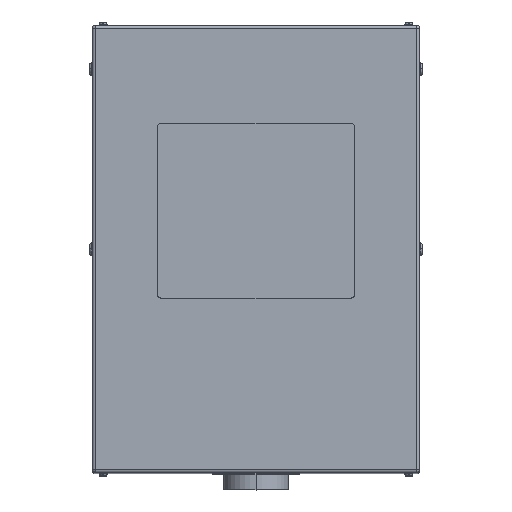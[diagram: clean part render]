
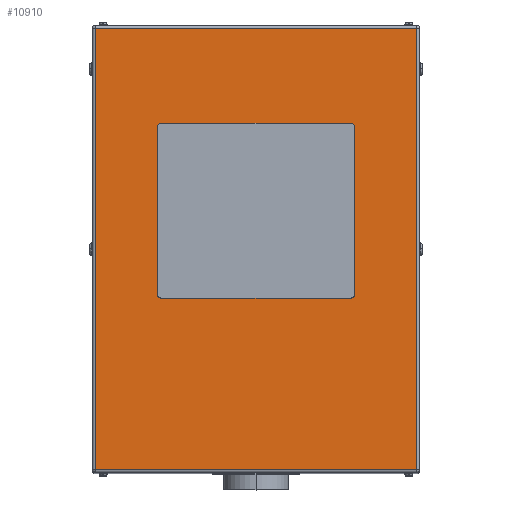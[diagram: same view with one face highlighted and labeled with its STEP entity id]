
A CAD part, top view. The second image highlights one B-rep face of the part: STEP entity #10910.
In plain terms, the highlighted planar face has unit normal (0, 0, 1).
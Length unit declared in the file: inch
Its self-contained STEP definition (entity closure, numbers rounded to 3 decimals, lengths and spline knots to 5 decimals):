
#189 = EDGE_CURVE ( 'NONE', #3416, #13415, #8783, .T. ) ;
#241 = VERTEX_POINT ( 'NONE', #742 ) ;
#296 = CARTESIAN_POINT ( 'NONE',  ( -8.75, -4.5, 29. ) ) ;
#727 = EDGE_CURVE ( 'NONE', #12975, #3416, #15893, .T. ) ;
#742 = CARTESIAN_POINT ( 'NONE',  ( -14.734, 20.234, 29. ) ) ;
#792 = VERTEX_POINT ( 'NONE', #14416 ) ;
#1377 = PLANE ( 'NONE',  #11976 ) ;
#1795 = CARTESIAN_POINT ( 'NONE',  ( -8.75, 11.5, 29. ) ) ;
#2184 = CARTESIAN_POINT ( 'NONE',  ( 15., 20.234, 29. ) ) ;
#2364 = VECTOR ( 'NONE', #19317, 39.37008 ) ;
#2567 = LINE ( 'NONE', #296, #15272 ) ;
#2724 = AXIS2_PLACEMENT_3D ( 'NONE', #10993, #16459, #4165 ) ;
#2852 = VECTOR ( 'NONE', #20406, 39.37008 ) ;
#2894 = LINE ( 'NONE', #6990, #13952 ) ;
#3262 = CARTESIAN_POINT ( 'NONE',  ( 15., 20.5, 29. ) ) ;
#3369 = LINE ( 'NONE', #21369, #11432 ) ;
#3416 = VERTEX_POINT ( 'NONE', #22306 ) ;
#3504 = CARTESIAN_POINT ( 'NONE',  ( 8.75, 11.5, 29. ) ) ;
#3541 = CARTESIAN_POINT ( 'NONE',  ( 14.734, 20.5, 29. ) ) ;
#3642 = FACE_BOUND ( 'NONE', #14204, .T. ) ;
#3819 = EDGE_CURVE ( 'NONE', #792, #12975, #4375, .T. ) ;
#4154 = EDGE_CURVE ( 'NONE', #13559, #14974, #5544, .T. ) ;
#4165 = DIRECTION ( 'NONE',  ( -1., 0., 0. ) ) ;
#4266 = DIRECTION ( 'NONE',  ( 0., 0., 1. ) ) ;
#4375 = CIRCLE ( 'NONE', #2724, 0.25 ) ;
#4660 = CARTESIAN_POINT ( 'NONE',  ( 14.734, -20.234, 29. ) ) ;
#5116 = VERTEX_POINT ( 'NONE', #18857 ) ;
#5229 = DIRECTION ( 'NONE',  ( 1., 0., 0. ) ) ;
#5544 = LINE ( 'NONE', #3541, #7688 ) ;
#5660 = CIRCLE ( 'NONE', #16988, 0.25 ) ;
#6076 = DIRECTION ( 'NONE',  ( 1., 0., 0. ) ) ;
#6162 = CARTESIAN_POINT ( 'NONE',  ( 9., -4.25, 29. ) ) ;
#6259 = DIRECTION ( 'NONE',  ( 0., 0., 1. ) ) ;
#6400 = CARTESIAN_POINT ( 'NONE',  ( -8.75, -4.25, 29. ) ) ;
#6717 = DIRECTION ( 'NONE',  ( 0., 0., -1. ) ) ;
#6798 = EDGE_CURVE ( 'NONE', #19132, #792, #2894, .T. ) ;
#6990 = CARTESIAN_POINT ( 'NONE',  ( 9., 11.25, 29. ) ) ;
#7362 = DIRECTION ( 'NONE',  ( 0., 1., 0. ) ) ;
#7688 = VECTOR ( 'NONE', #15533, 39.37008 ) ;
#7856 = ORIENTED_EDGE ( 'NONE', *, *, #12881, .F. ) ;
#8003 = LINE ( 'NONE', #2184, #16644 ) ;
#8783 = CIRCLE ( 'NONE', #13582, 0.25 ) ;
#8822 = DIRECTION ( 'NONE',  ( 0., -1., 0. ) ) ;
#8837 = DIRECTION ( 'NONE',  ( -1., 0., 0. ) ) ;
#9185 = ORIENTED_EDGE ( 'NONE', *, *, #3819, .F. ) ;
#9352 = ORIENTED_EDGE ( 'NONE', *, *, #21242, .F. ) ;
#9634 = ORIENTED_EDGE ( 'NONE', *, *, #10416, .T. ) ;
#9974 = ORIENTED_EDGE ( 'NONE', *, *, #21387, .F. ) ;
#10416 = EDGE_CURVE ( 'NONE', #14974, #241, #8003, .T. ) ;
#10602 = CARTESIAN_POINT ( 'NONE',  ( -14.734, 20.5, 29. ) ) ;
#10759 = AXIS2_PLACEMENT_3D ( 'NONE', #6400, #6259, #20169 ) ;
#10910 = ADVANCED_FACE ( 'NONE', ( #3642, #18479 ), #1377, .F. ) ;
#10993 = CARTESIAN_POINT ( 'NONE',  ( 8.75, 11.25, 29. ) ) ;
#11005 = LINE ( 'NONE', #10602, #19663 ) ;
#11136 = CARTESIAN_POINT ( 'NONE',  ( -14.734, -20.234, 29. ) ) ;
#11343 = ORIENTED_EDGE ( 'NONE', *, *, #189, .F. ) ;
#11432 = VECTOR ( 'NONE', #14254, 39.37008 ) ;
#11500 = CIRCLE ( 'NONE', #10759, 0.25 ) ;
#11976 = AXIS2_PLACEMENT_3D ( 'NONE', #3262, #6717, #13587 ) ;
#12304 = ORIENTED_EDGE ( 'NONE', *, *, #20258, .F. ) ;
#12653 = CARTESIAN_POINT ( 'NONE',  ( 8.75, -4.5, 29. ) ) ;
#12737 = VERTEX_POINT ( 'NONE', #11136 ) ;
#12852 = ORIENTED_EDGE ( 'NONE', *, *, #17573, .T. ) ;
#12881 = EDGE_CURVE ( 'NONE', #20897, #5116, #11500, .T. ) ;
#12975 = VERTEX_POINT ( 'NONE', #3504 ) ;
#13415 = VERTEX_POINT ( 'NONE', #19281 ) ;
#13559 = VERTEX_POINT ( 'NONE', #4660 ) ;
#13582 = AXIS2_PLACEMENT_3D ( 'NONE', #18095, #19460, #16076 ) ;
#13587 = DIRECTION ( 'NONE',  ( -1., 0., 0. ) ) ;
#13853 = CARTESIAN_POINT ( 'NONE',  ( 14.734, 20.234, 29. ) ) ;
#13952 = VECTOR ( 'NONE', #7362, 39.37008 ) ;
#14204 = EDGE_LOOP ( 'NONE', ( #9352, #7856, #9974, #11343, #15508, #9185, #18553, #12304 ) ) ;
#14254 = DIRECTION ( 'NONE',  ( 0., -1., 0. ) ) ;
#14416 = CARTESIAN_POINT ( 'NONE',  ( 9., 11.25, 29. ) ) ;
#14974 = VERTEX_POINT ( 'NONE', #13853 ) ;
#15272 = VECTOR ( 'NONE', #5229, 39.37008 ) ;
#15475 = CARTESIAN_POINT ( 'NONE',  ( 14.734, -20.234, 29. ) ) ;
#15508 = ORIENTED_EDGE ( 'NONE', *, *, #727, .F. ) ;
#15533 = DIRECTION ( 'NONE',  ( 0., 1., 0. ) ) ;
#15893 = LINE ( 'NONE', #1795, #2364 ) ;
#16076 = DIRECTION ( 'NONE',  ( 1., 0., 0. ) ) ;
#16382 = VERTEX_POINT ( 'NONE', #12653 ) ;
#16459 = DIRECTION ( 'NONE',  ( 0., 0., 1. ) ) ;
#16644 = VECTOR ( 'NONE', #8837, 39.37008 ) ;
#16988 = AXIS2_PLACEMENT_3D ( 'NONE', #19732, #4266, #6076 ) ;
#17573 = EDGE_CURVE ( 'NONE', #241, #12737, #11005, .T. ) ;
#17963 = CARTESIAN_POINT ( 'NONE',  ( -9., -4.25, 29. ) ) ;
#18095 = CARTESIAN_POINT ( 'NONE',  ( -8.75, 11.25, 29. ) ) ;
#18479 = FACE_OUTER_BOUND ( 'NONE', #19705, .T. ) ;
#18553 = ORIENTED_EDGE ( 'NONE', *, *, #6798, .F. ) ;
#18857 = CARTESIAN_POINT ( 'NONE',  ( -8.75, -4.5, 29. ) ) ;
#19132 = VERTEX_POINT ( 'NONE', #6162 ) ;
#19269 = ORIENTED_EDGE ( 'NONE', *, *, #21154, .T. ) ;
#19281 = CARTESIAN_POINT ( 'NONE',  ( -9., 11.25, 29. ) ) ;
#19304 = LINE ( 'NONE', #15475, #2852 ) ;
#19317 = DIRECTION ( 'NONE',  ( -1., 0., 0. ) ) ;
#19460 = DIRECTION ( 'NONE',  ( 0., 0., 1. ) ) ;
#19663 = VECTOR ( 'NONE', #8822, 39.37008 ) ;
#19705 = EDGE_LOOP ( 'NONE', ( #12852, #19269, #20211, #9634 ) ) ;
#19732 = CARTESIAN_POINT ( 'NONE',  ( 8.75, -4.25, 29. ) ) ;
#20169 = DIRECTION ( 'NONE',  ( 1., 0., 0. ) ) ;
#20211 = ORIENTED_EDGE ( 'NONE', *, *, #4154, .T. ) ;
#20258 = EDGE_CURVE ( 'NONE', #16382, #19132, #5660, .T. ) ;
#20406 = DIRECTION ( 'NONE',  ( 1., 0., 0. ) ) ;
#20897 = VERTEX_POINT ( 'NONE', #17963 ) ;
#21154 = EDGE_CURVE ( 'NONE', #12737, #13559, #19304, .T. ) ;
#21242 = EDGE_CURVE ( 'NONE', #5116, #16382, #2567, .T. ) ;
#21369 = CARTESIAN_POINT ( 'NONE',  ( -9., 11.25, 29. ) ) ;
#21387 = EDGE_CURVE ( 'NONE', #13415, #20897, #3369, .T. ) ;
#22306 = CARTESIAN_POINT ( 'NONE',  ( -8.75, 11.5, 29. ) ) ;
